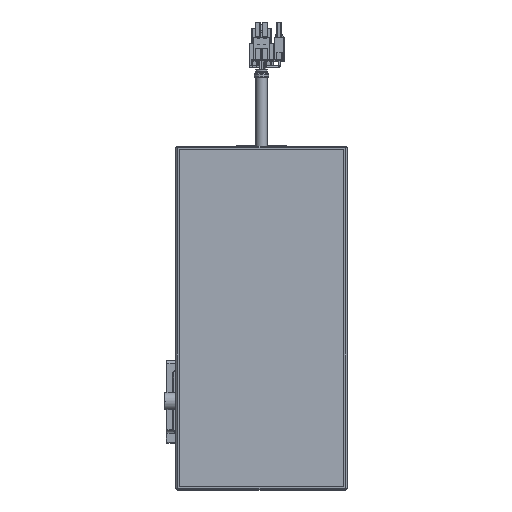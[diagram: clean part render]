
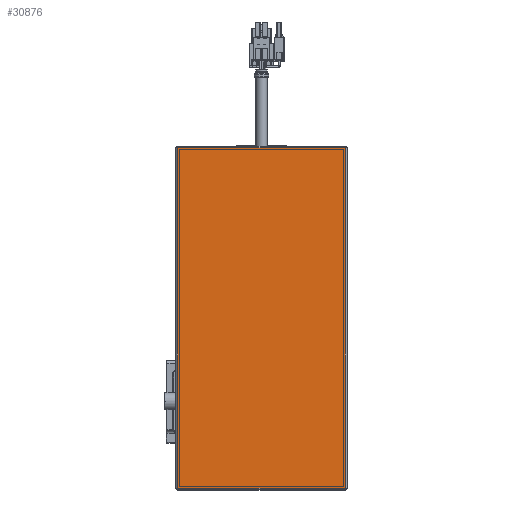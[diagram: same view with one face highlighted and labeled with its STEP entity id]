
A CAD part, top view. The second image highlights one B-rep face of the part: STEP entity #30876.
In plain terms, the highlighted planar face has unit normal (0, 0, 1).
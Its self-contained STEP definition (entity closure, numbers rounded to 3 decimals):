
#30837=CARTESIAN_POINT('',(-52.5,50.5,522.5));
#30838=DIRECTION('',(0.,1.,0.));
#30839=DIRECTION('',(0.,-0.,1.));
#30840=AXIS2_PLACEMENT_3D('',#30837,#30839,#30838);
#30841=PLANE('',#30840);
#30842=CARTESIAN_POINT('',(51.,-53.,522.5));
#30843=VERTEX_POINT('',#30842);
#30844=CARTESIAN_POINT('',(51.,154.,522.5));
#30845=VERTEX_POINT('',#30844);
#30846=CARTESIAN_POINT('',(51.,-53.,522.5));
#30847=DIRECTION('',(0.,1.,0.));
#30848=VECTOR('',#30847,207.);
#30849=LINE('',#30846,#30848);
#30850=EDGE_CURVE('',#30843,#30845,#30849,.T.);
#30851=ORIENTED_EDGE('E6247',*,*,#30850,.T.);
#30852=CARTESIAN_POINT('',(-51.,154.,522.5));
#30853=VERTEX_POINT('',#30852);
#30854=CARTESIAN_POINT('',(51.,154.,522.5));
#30855=DIRECTION('',(-1.,0.,0.));
#30856=VECTOR('',#30855,102.);
#30857=LINE('',#30854,#30856);
#30858=EDGE_CURVE('',#30845,#30853,#30857,.T.);
#30859=ORIENTED_EDGE('E6248',*,*,#30858,.T.);
#30860=CARTESIAN_POINT('',(-51.,-53.,522.5));
#30861=VERTEX_POINT('',#30860);
#30862=CARTESIAN_POINT('',(-51.,154.,522.5));
#30863=DIRECTION('',(0.,-1.,0.));
#30864=VECTOR('',#30863,207.);
#30865=LINE('',#30862,#30864);
#30866=EDGE_CURVE('',#30853,#30861,#30865,.T.);
#30867=ORIENTED_EDGE('E6249',*,*,#30866,.T.);
#30868=CARTESIAN_POINT('',(-51.,-53.,522.5));
#30869=DIRECTION('',(1.,0.,0.));
#30870=VECTOR('',#30869,102.);
#30871=LINE('',#30868,#30870);
#30872=EDGE_CURVE('',#30861,#30843,#30871,.T.);
#30873=ORIENTED_EDGE('E6250',*,*,#30872,.T.);
#30874=EDGE_LOOP('',(#30851,#30859,#30867,#30873));
#30875=FACE_OUTER_BOUND('',#30874,.T.);
#30876=ADVANCED_FACE('F2387',(#30875),#30841,.T.);
